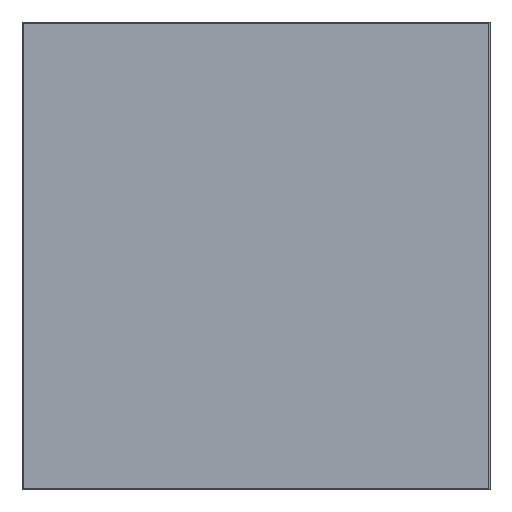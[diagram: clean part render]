
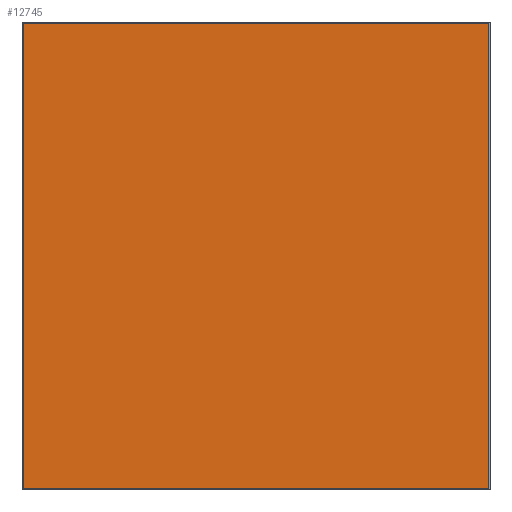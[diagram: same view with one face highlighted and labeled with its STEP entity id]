
A CAD part, top view. The second image highlights one B-rep face of the part: STEP entity #12745.
In plain terms, the highlighted planar face has unit normal (0, 0, 1).
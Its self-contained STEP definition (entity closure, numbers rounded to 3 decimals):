
#12706=CARTESIAN_POINT('',(0.,0.,20.));
#12707=DIRECTION('',(1.,0.,0.));
#12708=DIRECTION('',(0.,0.,1.));
#12709=AXIS2_PLACEMENT_3D('',#12706,#12708,#12707);
#12710=PLANE('',#12709);
#12711=CARTESIAN_POINT('',(348.5,-348.5,20.));
#12712=VERTEX_POINT('',#12711);
#12713=CARTESIAN_POINT('',(348.5,348.5,20.));
#12714=VERTEX_POINT('',#12713);
#12715=CARTESIAN_POINT('',(348.5,-348.5,20.));
#12716=DIRECTION('',(0.,1.,0.));
#12717=VECTOR('',#12716,697.);
#12718=LINE('',#12715,#12717);
#12719=EDGE_CURVE('',#12712,#12714,#12718,.T.);
#12720=ORIENTED_EDGE('E118',*,*,#12719,.T.);
#12721=CARTESIAN_POINT('',(-348.5,348.5,20.));
#12722=VERTEX_POINT('',#12721);
#12723=CARTESIAN_POINT('',(348.5,348.5,20.));
#12724=DIRECTION('',(-1.,0.,0.));
#12725=VECTOR('',#12724,697.);
#12726=LINE('',#12723,#12725);
#12727=EDGE_CURVE('',#12714,#12722,#12726,.T.);
#12728=ORIENTED_EDGE('E119',*,*,#12727,.T.);
#12729=CARTESIAN_POINT('',(-348.5,-348.5,20.));
#12730=VERTEX_POINT('',#12729);
#12731=CARTESIAN_POINT('',(-348.5,348.5,20.));
#12732=DIRECTION('',(0.,-1.,0.));
#12733=VECTOR('',#12732,697.);
#12734=LINE('',#12731,#12733);
#12735=EDGE_CURVE('',#12722,#12730,#12734,.T.);
#12736=ORIENTED_EDGE('E120',*,*,#12735,.T.);
#12737=CARTESIAN_POINT('',(-348.5,-348.5,20.));
#12738=DIRECTION('',(1.,0.,0.));
#12739=VECTOR('',#12738,697.);
#12740=LINE('',#12737,#12739);
#12741=EDGE_CURVE('',#12730,#12712,#12740,.T.);
#12742=ORIENTED_EDGE('E117',*,*,#12741,.T.);
#12743=EDGE_LOOP('',(#12720,#12728,#12736,#12742));
#12744=FACE_OUTER_BOUND('',#12743,.T.);
#12745=ADVANCED_FACE('F2',(#12744),#12710,.T.);
